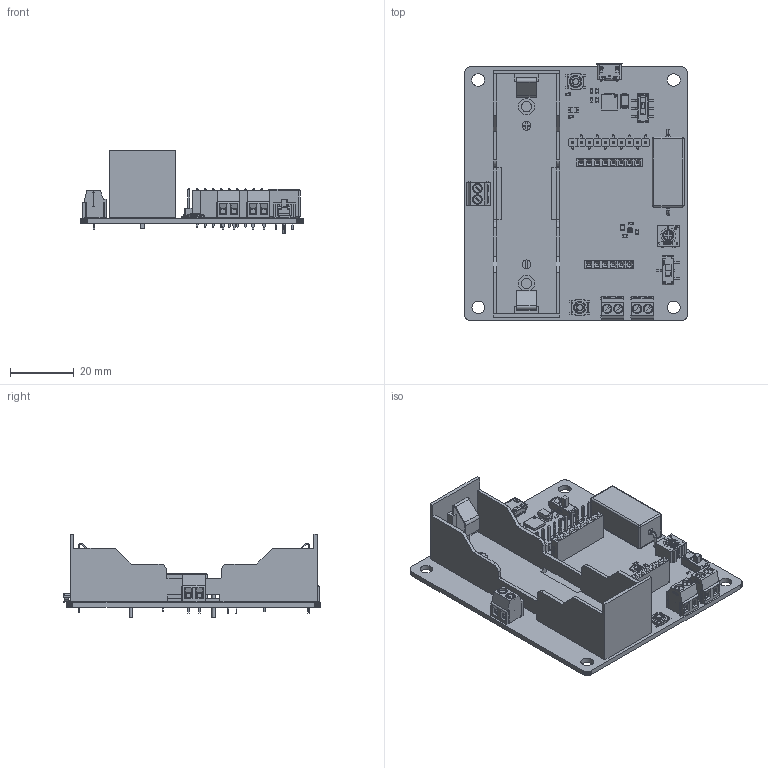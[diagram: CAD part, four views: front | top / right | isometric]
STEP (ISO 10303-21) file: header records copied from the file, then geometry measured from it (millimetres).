
FILE_DESCRIPTION(('KiCad electronic assembly'),'2;1');
FILE_NAME('Ex-LiCM-03S-v1.3.step','2026-10-05T19:20:15',('Pcbnew'),( 'Kicad'),'Open CASCADE STEP processor 7.7','KiCad to STEP converter' ,'Unknown');
FILE_SCHEMA(('AUTOMOTIVE_DESIGN { 1 0 10303 214 1 1 1 1 }'));
Length unit declared in the file: millimetre
Products named in the file (38): Ex-LiCM-03S-v1.3 1; SW-SMD_MST-22D18G23J_C2875122; COMPOUND; C0603_L1.6-W0.8-H0.8; SOLID; pinhead_8p_f; BAT-TH_BH-18650-A5BJ001-2D; K3-2235S-K1; PTS526_SM15_SMTR2_LFS; R0603; CONN-TH_2P-P3.50_L7.4-W7.0; 3362P; 1050170001; SMA_L4.3-W2.6-LS5.2-RD; R0805_L2.0-W1.3-H0.6; RES-TH_L22.0-W10.0-P26.00-D1.0; pinhead_6p_f; CP2102N-A02-GQFN28; LTST-C150KGKT; pinhead_10p_f_smd2; SOT-563-6P_L1.6-W1.2-H0.6-LS1.6-P0.50; Ex-LiCM-03S-v1.3 PCB
Assembly tree (47 placements, depth 3):
  Ex-LiCM-03S-v1.3 1
    SW-SMD_MST-22D18G23J_C2875122
      COMPOUND
    C0603_L1.6-W0.8-H0.8  x6
      SOLID
    pinhead_8p_f
      COMPOUND
    BAT-TH_BH-18650-A5BJ001-2D
      COMPOUND
    K3-2235S-K1
      COMPOUND
    PTS526_SM15_SMTR2_LFS  x2
      SOLID
    R0603  x3
      COMPOUND
    CONN-TH_2P-P3.50_L7.4-W7.0  x3
      COMPOUND
    3362P
      SOLID
    1050170001
      COMPOUND
    SMA_L4.3-W2.6-LS5.2-RD
      COMPOUND
    R0805_L2.0-W1.3-H0.6
      COMPOUND
    RES-TH_L22.0-W10.0-P26.00-D1.0
      SOLID
    pinhead_6p_f
      COMPOUND
    CP2102N-A02-GQFN28
      COMPOUND
    LTST-C150KGKT
      COMPOUND
    pinhead_10p_f_smd2
      COMPOUND
    SOT-563-6P_L1.6-W1.2-H0.6-LS1.6-P0.50
      COMPOUND
    Ex-LiCM-03S-v1.3 PCB
Bounding box: 70 x 81.1 x 26.31 mm (x, y, z)
Volume: 18107.3 mm3; surface area: 29085.5 mm2
Topology: 188 solids, 189 shells, 10556 faces, 28529 edges, 18704 vertices
Faces by surface type: plane 6865, bspline 2433, cylinder 1120, sphere 76, torus 34, cone 16, revolution 12
Full cylindrical faces by diameter (mm): 0.625 x1, 0.762 x3, 0.85 x2, 1.02 x14, 1.1 x2, 1.3 x6, 2.2 x2, 4 x4
Entity records: 530327 total; most frequent: CARTESIAN_POINT 132568, DIRECTION 58958, LINE 43624, VECTOR 43624, ORIENTED_EDGE 37584, PCURVE 37584, DEFINITIONAL_REPRESENTATION 37584, EDGE_CURVE 18792
